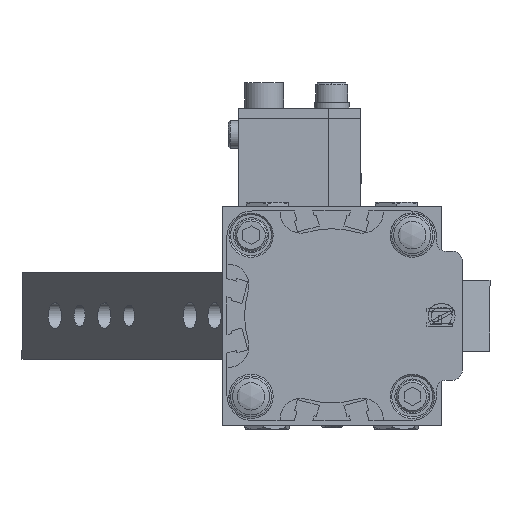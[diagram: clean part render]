
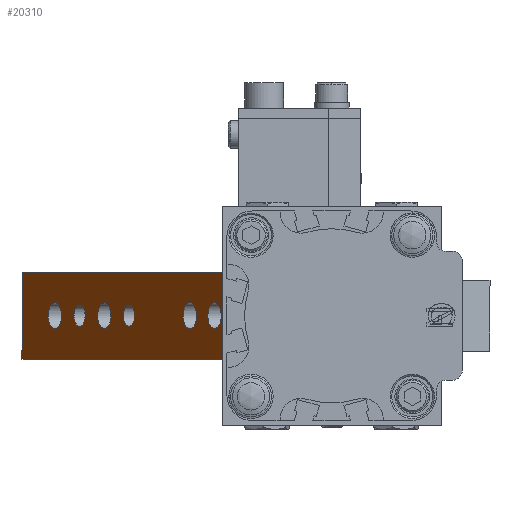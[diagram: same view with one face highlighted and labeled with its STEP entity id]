
A CAD part, left-side view. The second image highlights one B-rep face of the part: STEP entity #20310.
In plain terms, the highlighted planar face has unit normal (-0.51, 0.86, 0) as drawn and (0, 1, 0) by its records, which use the part's own axes.
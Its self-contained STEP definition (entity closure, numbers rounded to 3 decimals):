
#1888=LINE('',#31341,#3358);
#1901=LINE('',#31372,#3371);
#1906=LINE('',#31382,#3376);
#1928=LINE('',#31449,#3398);
#1930=LINE('',#31452,#3400);
#1933=LINE('',#31466,#3403);
#1941=LINE('',#31523,#3411);
#1942=LINE('',#31524,#3412);
#3358=VECTOR('',#25340,10.);
#3371=VECTOR('',#25365,10.);
#3376=VECTOR('',#25374,10.);
#3398=VECTOR('',#25434,10.);
#3400=VECTOR('',#25438,10.);
#3403=VECTOR('',#25451,10.);
#3411=VECTOR('',#25473,10.);
#3412=VECTOR('',#25474,10.);
#4567=PLANE('',#22322);
#5522=FACE_BOUND('',#7704,.T.);
#5523=FACE_BOUND('',#7705,.T.);
#5524=FACE_BOUND('',#7706,.T.);
#5525=FACE_BOUND('',#7707,.T.);
#5526=FACE_BOUND('',#7708,.T.);
#5527=FACE_BOUND('',#7709,.T.);
#6291=FACE_OUTER_BOUND('',#7703,.T.);
#7703=EDGE_LOOP('',(#16112,#16113,#16114,#16115,#16116,#16117,#16118,#16119));
#7704=EDGE_LOOP('',(#16120));
#7705=EDGE_LOOP('',(#16121));
#7706=EDGE_LOOP('',(#16122));
#7707=EDGE_LOOP('',(#16123));
#7708=EDGE_LOOP('',(#16124));
#7709=EDGE_LOOP('',(#16125));
#9308=CIRCLE('',#22323,4.);
#9309=CIRCLE('',#22324,4.);
#9310=CIRCLE('',#22325,3.324);
#9311=CIRCLE('',#22326,3.324);
#9312=CIRCLE('',#22327,4.025);
#9313=CIRCLE('',#22328,4.025);
#10426=VERTEX_POINT('',#31338);
#10427=VERTEX_POINT('',#31340);
#10438=VERTEX_POINT('',#31369);
#10439=VERTEX_POINT('',#31371);
#10441=VERTEX_POINT('',#31379);
#10442=VERTEX_POINT('',#31381);
#10467=VERTEX_POINT('',#31445);
#10480=VERTEX_POINT('',#31522);
#10481=VERTEX_POINT('',#31525);
#10482=VERTEX_POINT('',#31527);
#10483=VERTEX_POINT('',#31529);
#10484=VERTEX_POINT('',#31531);
#10485=VERTEX_POINT('',#31533);
#10486=VERTEX_POINT('',#31535);
#12600=EDGE_CURVE('',#10427,#10426,#1888,.T.);
#12615=EDGE_CURVE('',#10439,#10438,#1901,.T.);
#12620=EDGE_CURVE('',#10441,#10442,#1906,.T.);
#12654=EDGE_CURVE('',#10442,#10467,#1928,.T.);
#12656=EDGE_CURVE('',#10426,#10467,#1930,.T.);
#12663=EDGE_CURVE('',#10441,#10439,#1933,.T.);
#12675=EDGE_CURVE('',#10480,#10438,#1941,.T.);
#12676=EDGE_CURVE('',#10480,#10427,#1942,.T.);
#12677=EDGE_CURVE('',#10481,#10481,#9308,.T.);
#12678=EDGE_CURVE('',#10482,#10482,#9309,.T.);
#12679=EDGE_CURVE('',#10483,#10483,#9310,.T.);
#12680=EDGE_CURVE('',#10484,#10484,#9311,.T.);
#12681=EDGE_CURVE('',#10485,#10485,#9312,.T.);
#12682=EDGE_CURVE('',#10486,#10486,#9313,.T.);
#16112=ORIENTED_EDGE('',*,*,#12600,.T.);
#16113=ORIENTED_EDGE('',*,*,#12656,.T.);
#16114=ORIENTED_EDGE('',*,*,#12654,.F.);
#16115=ORIENTED_EDGE('',*,*,#12620,.F.);
#16116=ORIENTED_EDGE('',*,*,#12663,.T.);
#16117=ORIENTED_EDGE('',*,*,#12615,.T.);
#16118=ORIENTED_EDGE('',*,*,#12675,.F.);
#16119=ORIENTED_EDGE('',*,*,#12676,.T.);
#16120=ORIENTED_EDGE('',*,*,#12677,.T.);
#16121=ORIENTED_EDGE('',*,*,#12678,.T.);
#16122=ORIENTED_EDGE('',*,*,#12679,.T.);
#16123=ORIENTED_EDGE('',*,*,#12680,.T.);
#16124=ORIENTED_EDGE('',*,*,#12681,.T.);
#16125=ORIENTED_EDGE('',*,*,#12682,.T.);
#20310=ADVANCED_FACE('',(#6291,#5522,#5523,#5524,#5525,#5526,#5527),#4567,
 .T.);
#22322=AXIS2_PLACEMENT_3D('',#31521,#25471,#25472);
#22323=AXIS2_PLACEMENT_3D('',#31526,#25475,#25476);
#22324=AXIS2_PLACEMENT_3D('',#31528,#25477,#25478);
#22325=AXIS2_PLACEMENT_3D('',#31530,#25479,#25480);
#22326=AXIS2_PLACEMENT_3D('',#31532,#25481,#25482);
#22327=AXIS2_PLACEMENT_3D('',#31534,#25483,#25484);
#22328=AXIS2_PLACEMENT_3D('',#31536,#25485,#25486);
#25340=DIRECTION('',(0.,0.,1.));
#25365=DIRECTION('',(1.,0.,0.));
#25374=DIRECTION('',(-1.,0.,0.));
#25434=DIRECTION('',(0.,0.,-1.));
#25438=DIRECTION('',(-1.,0.,0.));
#25451=DIRECTION('',(0.,0.,1.));
#25471=DIRECTION('center_axis',(0.,1.,0.));
#25472=DIRECTION('ref_axis',(0.,0.,1.));
#25473=DIRECTION('',(0.,0.,1.));
#25474=DIRECTION('',(-1.,0.,0.));
#25475=DIRECTION('center_axis',(0.,-1.,0.));
#25476=DIRECTION('ref_axis',(1.,0.,0.));
#25477=DIRECTION('center_axis',(0.,-1.,0.));
#25478=DIRECTION('ref_axis',(1.,0.,0.));
#25479=DIRECTION('center_axis',(0.,-1.,0.));
#25480=DIRECTION('ref_axis',(1.,0.,0.));
#25481=DIRECTION('center_axis',(0.,-1.,0.));
#25482=DIRECTION('ref_axis',(1.,0.,0.));
#25483=DIRECTION('center_axis',(0.,-1.,0.));
#25484=DIRECTION('ref_axis',(1.,0.,0.));
#25485=DIRECTION('center_axis',(0.,-1.,0.));
#25486=DIRECTION('ref_axis',(1.,0.,0.));
#31338=CARTESIAN_POINT('',(26.5,75.,2.5));
#31340=CARTESIAN_POINT('',(26.5,75.,0.));
#31341=CARTESIAN_POINT('',(26.5,75.,0.625));
#31369=CARTESIAN_POINT('',(155.,75.,27.));
#31371=CARTESIAN_POINT('',(26.5,75.,27.));
#31372=CARTESIAN_POINT('',(155.,75.,27.));
#31379=CARTESIAN_POINT('',(26.5,75.,24.5));
#31381=CARTESIAN_POINT('',(-3.,75.,24.5));
#31382=CARTESIAN_POINT('',(0.,75.,24.5));
#31445=CARTESIAN_POINT('',(-3.,75.,2.5));
#31449=CARTESIAN_POINT('',(-3.,75.,24.5));
#31452=CARTESIAN_POINT('',(0.,75.,2.5));
#31466=CARTESIAN_POINT('',(26.5,75.,12.875));
#31521=CARTESIAN_POINT('Origin',(0.,75.,0.));
#31522=CARTESIAN_POINT('',(155.,75.,0.));
#31523=CARTESIAN_POINT('',(155.,75.,0.));
#31524=CARTESIAN_POINT('',(155.,75.,0.));
#31525=CARTESIAN_POINT('',(139.,75.,13.5));
#31526=CARTESIAN_POINT('Origin',(135.,75.,13.5));
#31527=CARTESIAN_POINT('',(109.,75.,13.5));
#31528=CARTESIAN_POINT('Origin',(105.,75.,13.5));
#31529=CARTESIAN_POINT('',(123.324,75.,13.5));
#31530=CARTESIAN_POINT('Origin',(120.,75.,13.5));
#31531=CARTESIAN_POINT('',(93.324,75.,13.5));
#31532=CARTESIAN_POINT('Origin',(90.,75.,13.5));
#31533=CARTESIAN_POINT('',(42.025,75.,13.5));
#31534=CARTESIAN_POINT('Origin',(38.,75.,13.5));
#31535=CARTESIAN_POINT('',(57.025,75.,13.5));
#31536=CARTESIAN_POINT('Origin',(53.,75.,13.5));
